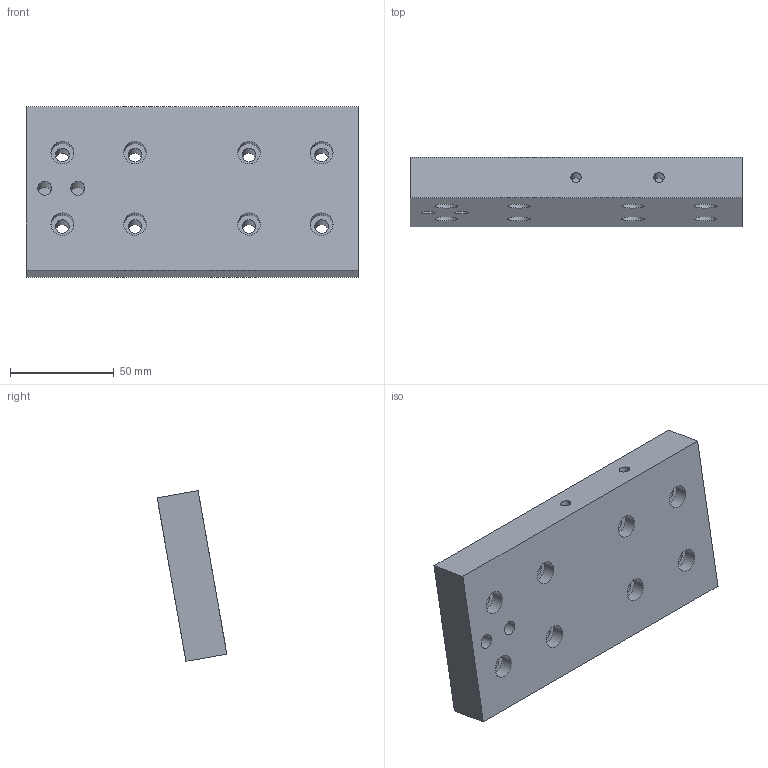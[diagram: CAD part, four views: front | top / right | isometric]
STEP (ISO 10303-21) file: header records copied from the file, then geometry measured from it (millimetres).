
FILE_DESCRIPTION(('golf model'),'2;1');
FILE_NAME('golf','',(''),(''),'golf_step_io','golf','');
FILE_SCHEMA(('AUTOMOTIVE_DESIGN { 1 0 10303 214 1 1 1 1 }'));
Length unit declared in the file: millimetre
Products named in the file (2): ASSEMBLY; gantry_frame.foot_top_base
Assembly tree (1 placements, depth 2):
  ASSEMBLY
    gantry_frame.foot_top_base
Bounding box: 160 x 33.59 x 82.26 mm (x, y, z)
Volume: 245279.7 mm3; surface area: 40160.4 mm2
Topology: 1 solids, 1 shells, 42 faces, 80 edges, 54 vertices
Faces by surface type: cylinder 22, plane 20
Full cylindrical faces by diameter (mm): 4.2 x2, 5 x2, 6.6 x8, 6.8 x2, 11 x8
Entity records: 1022 total; most frequent: DIRECTION 188, CARTESIAN_POINT 152, ORIENTED_EDGE 112, EDGE_LOOP 94, AXIS2_PLACEMENT_3D 88, FACE_BOUND 82, EDGE_CURVE 56, VERTEX_POINT 52
